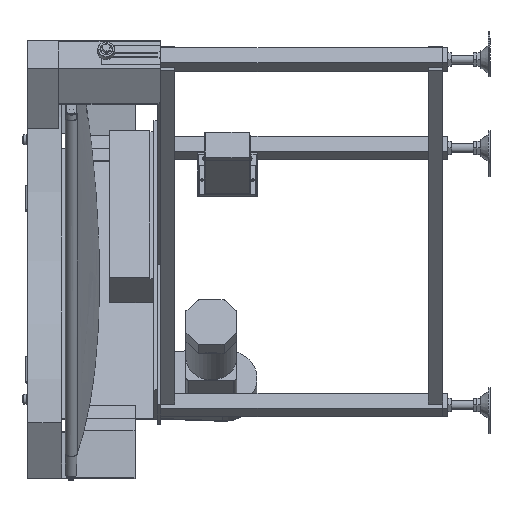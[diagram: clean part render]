
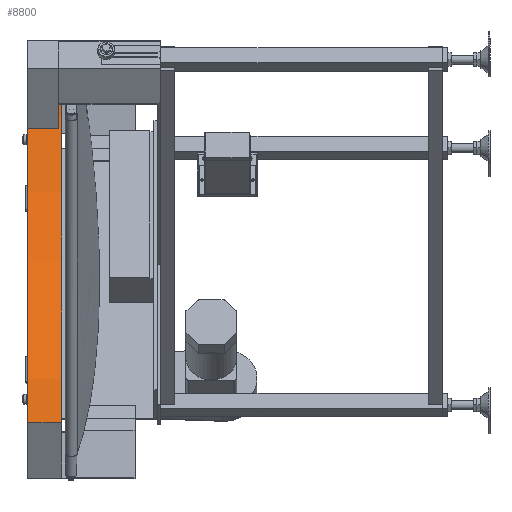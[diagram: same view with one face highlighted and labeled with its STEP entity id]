
A CAD part, left-side view. The second image highlights one B-rep face of the part: STEP entity #8800.
In plain terms, the highlighted cylindrical face has radius 780 mm (diameter 1560 mm), a partial arc.
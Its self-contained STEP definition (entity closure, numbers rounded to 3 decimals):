
#976 = DIRECTION ( 'NONE',  ( 0., 1., 0. ) ) ;
#1317 = FACE_OUTER_BOUND ( 'NONE', #16258, .T. ) ;
#1676 = CARTESIAN_POINT ( 'NONE',  ( 0., 0., 0. ) ) ;
#2143 = ORIENTED_EDGE ( 'NONE', *, *, #3728, .F. ) ;
#2855 = VERTEX_POINT ( 'NONE', #30829 ) ;
#3728 = EDGE_CURVE ( 'NONE', #20012, #25439, #13746, .T. ) ;
#4766 = DIRECTION ( 'NONE',  ( 0., 1., 0. ) ) ;
#6491 = DIRECTION ( 'NONE',  ( 0., -1., 0. ) ) ;
#8528 = CIRCLE ( 'NONE', #20452, 780. ) ;
#8800 = ADVANCED_FACE ( 'NONE', ( #1317 ), #13090, .F. ) ;
#9236 = CARTESIAN_POINT ( 'NONE',  ( 780., 8., 0. ) ) ;
#11608 = CARTESIAN_POINT ( 'NONE',  ( 780., 0., 0. ) ) ;
#12219 = DIRECTION ( 'NONE',  ( 0., 1., 0. ) ) ;
#13090 = CYLINDRICAL_SURFACE ( 'NONE', #19267, 780. ) ;
#13746 = LINE ( 'NONE', #30324, #30328 ) ;
#13858 = ORIENTED_EDGE ( 'NONE', *, *, #28548, .T. ) ;
#14309 = DIRECTION ( 'NONE',  ( 1., 0., 0. ) ) ;
#14698 = DIRECTION ( 'NONE',  ( 0., 1., 0. ) ) ;
#15904 = EDGE_CURVE ( 'NONE', #32205, #20012, #8528, .T. ) ;
#16258 = EDGE_LOOP ( 'NONE', ( #2143, #19145, #13858, #32629 ) ) ;
#18025 = CARTESIAN_POINT ( 'NONE',  ( 0., 8., 0. ) ) ;
#19071 = EDGE_CURVE ( 'NONE', #25439, #2855, #21394, .T. ) ;
#19145 = ORIENTED_EDGE ( 'NONE', *, *, #15904, .F. ) ;
#19267 = AXIS2_PLACEMENT_3D ( 'NONE', #1676, #14698, #32814 ) ;
#20012 = VERTEX_POINT ( 'NONE', #31992 ) ;
#20452 = AXIS2_PLACEMENT_3D ( 'NONE', #18025, #4766, #22911 ) ;
#21394 = CIRCLE ( 'NONE', #23331, 780. ) ;
#22911 = DIRECTION ( 'NONE',  ( -1., 0., 0. ) ) ;
#23331 = AXIS2_PLACEMENT_3D ( 'NONE', #29482, #6491, #14309 ) ;
#25439 = VERTEX_POINT ( 'NONE', #30548 ) ;
#28155 = VECTOR ( 'NONE', #976, 1000. ) ;
#28548 = EDGE_CURVE ( 'NONE', #32205, #2855, #29395, .T. ) ;
#29395 = LINE ( 'NONE', #11608, #28155 ) ;
#29482 = CARTESIAN_POINT ( 'NONE',  ( 0., 68., 0. ) ) ;
#30324 = CARTESIAN_POINT ( 'NONE',  ( 390., 0., -675.5 ) ) ;
#30328 = VECTOR ( 'NONE', #12219, 1000. ) ;
#30548 = CARTESIAN_POINT ( 'NONE',  ( 390., 68., -675.5 ) ) ;
#30829 = CARTESIAN_POINT ( 'NONE',  ( 780., 68., 0. ) ) ;
#31992 = CARTESIAN_POINT ( 'NONE',  ( 390., 8., -675.5 ) ) ;
#32205 = VERTEX_POINT ( 'NONE', #9236 ) ;
#32629 = ORIENTED_EDGE ( 'NONE', *, *, #19071, .F. ) ;
#32814 = DIRECTION ( 'NONE',  ( 1., 0., 0. ) ) ;
